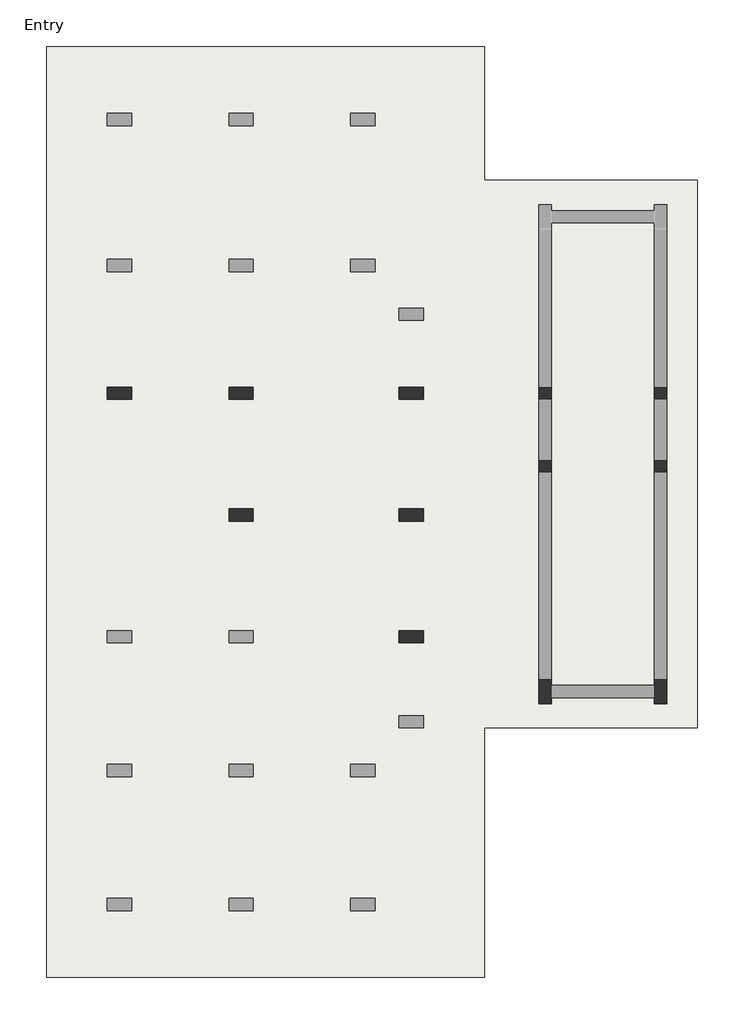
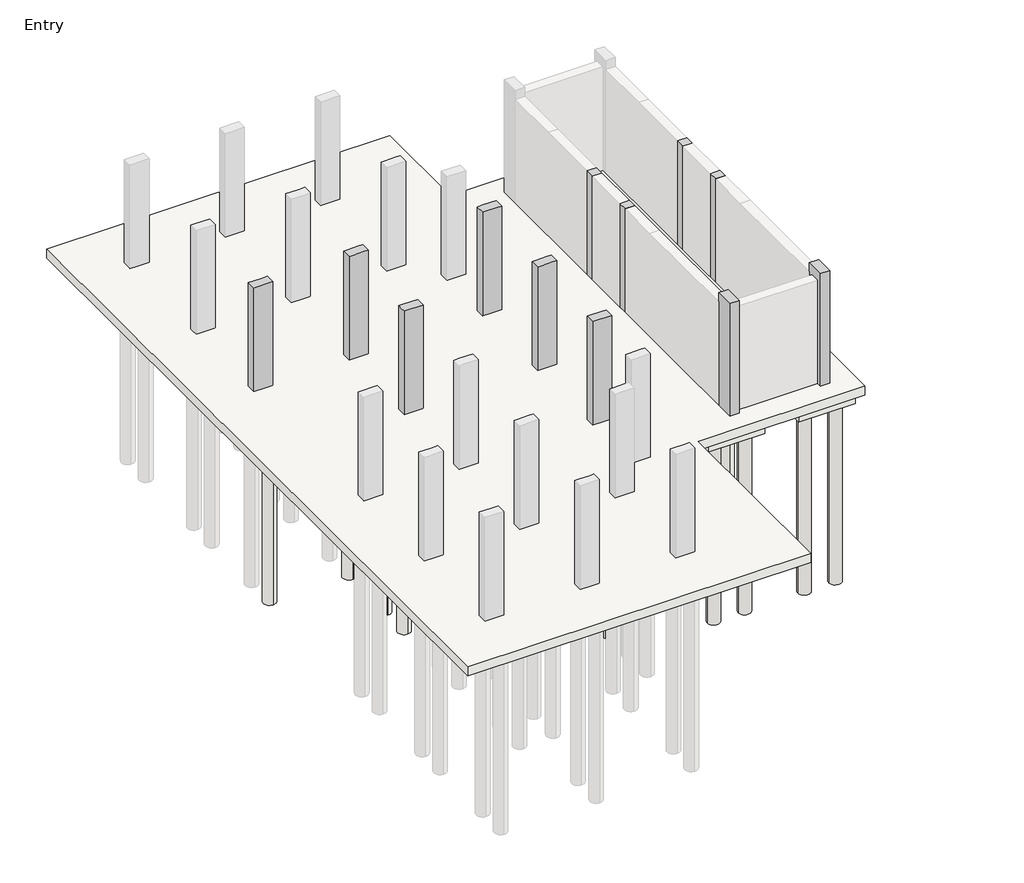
# One storey, part 2 of 3: 35 slabs, 12 columns.
"""IFC4 building model written with IfcOpenShell, lengths in millimetres."""

import ifcopenshell
import ifcopenshell.guid

model = None  # the IFC model being written
_history = None  # IfcOwnerHistory: only IFC2X3 demands one
_inside = {}  # id of a spatial element -> (the spatial element, [elements in it])
_under = {}  # id of a project, library or spatial element -> (it, [spatial elements below it])
_declared = {}  # id of a project -> (the project, [libraries it declares])
_typed = {}  # id of a type object -> (the type object, [elements of that type])
_made_of = {}  # id of a material, layer set ... -> (it, [elements and type objects made of it])


def new_model(schema):
    """Start an empty IFC model of exactly this schema.

    Asked for "IFC4X3", IfcOpenShell would pick the latest addendum, in which some entities
    have other attributes; the version numbers below select the first issue.
    IFC2X3 requires an IfcOwnerHistory on every rooted entity: one is made here for all.
    """
    global model, _history
    if schema == "IFC4X3":
        model = ifcopenshell.file(schema_version=(4, 3, 0, 0))
    else:
        model = ifcopenshell.file(schema=schema)
    _inside.clear()
    _under.clear()
    _declared.clear()
    _typed.clear()
    _made_of.clear()
    _history = None
    if model.schema == "IFC2X3":
        org = make("IfcOrganization", Name="unknown")
        user = make(
            "IfcPersonAndOrganization",
            ThePerson=make("IfcPerson", FamilyName="unknown"),
            TheOrganization=org,
        )
        app = make(
            "IfcApplication",
            ApplicationDeveloper=org,
            Version="unknown",
            ApplicationFullName="unknown",
            ApplicationIdentifier="unknown",
        )
        _history = make(
            "IfcOwnerHistory",
            OwningUser=user,
            OwningApplication=app,
            ChangeAction="ADDED",
            CreationDate=0,
        )
    return model


def make(cls, **values):
    """One entity of the class cls with the attributes given. An attribute that is None is left unset."""
    return model.create_entity(
        cls, **{name: value for name, value in values.items() if value is not None}
    )


def rooted(cls, **values):
    """An entity with a GlobalId (a new one), such as an element, a storey or a relation."""
    return make(cls, GlobalId=ifcopenshell.guid.new(), OwnerHistory=_history, **values)


def si_unit(unit_type, name, prefix=None):
    """IfcSIUnit, for example si_unit("LENGTHUNIT", "METRE", prefix="MILLI")."""
    return make("IfcSIUnit", UnitType=unit_type, Prefix=prefix, Name=name)


def assignment(units):
    """IfcUnitAssignment: the units of a project."""
    return None if units is None else make("IfcUnitAssignment", Units=units)


def point(xyz):
    """IfcCartesianPoint."""
    return None if xyz is None else make("IfcCartesianPoint", Coordinates=xyz)


def direction(xyz):
    """IfcDirection."""
    return None if xyz is None else make("IfcDirection", DirectionRatios=xyz)


def frame(location, z_axis=None, x_axis=None):
    """IfcAxis2Placement3D, a coordinate frame: its origin and axes. An axis left out is left unset."""
    return make(
        "IfcAxis2Placement3D",
        Location=point(location),
        Axis=direction(z_axis),
        RefDirection=direction(x_axis),
    )


def frame_2d(location, x_axis=None):
    """IfcAxis2Placement2D, a coordinate frame in the plane: its origin and x axis."""
    return make(
        "IfcAxis2Placement2D", Location=point(location), RefDirection=direction(x_axis)
    )


def origin():
    """The frame at (0, 0, 0) with its axes left unset."""
    return frame((0.0, 0.0, 0.0))


def origin_with_axes():
    """The frame at (0, 0, 0) with the z axis (0, 0, 1) and the x axis (1, 0, 0) written out."""
    return frame((0.0, 0.0, 0.0), z_axis=(0.0, 0.0, 1.0), x_axis=(1.0, 0.0, 0.0))


def place(relative_to, where):
    """IfcLocalPlacement: puts the frame where relative to a parent placement (None: the world)."""
    return make(
        "IfcLocalPlacement", PlacementRelTo=relative_to, RelativePlacement=where
    )


def context(
    kind, dimensions, precision=None, world=None, true_north=None, identifier=None
):
    """IfcGeometricRepresentationContext, for example the 3D "Model" context."""
    return make(
        "IfcGeometricRepresentationContext",
        ContextIdentifier=identifier,
        ContextType=kind,
        CoordinateSpaceDimension=dimensions,
        Precision=precision,
        WorldCoordinateSystem=world,
        TrueNorth=true_north,
    )


def project(units=None, contexts=None):
    """IfcProject with its units and contexts."""
    return rooted(
        "IfcProject",
        Name="project",
        RepresentationContexts=contexts,
        UnitsInContext=assignment(units),
    )


def spatial(cls, under=None, at=None, **own):
    """A site, building, storey or space (cls), placed at a placement, below another one or the project."""
    s = rooted(cls, ObjectPlacement=at, **own)
    if under is not None:
        _under.setdefault(under.id(), (under, []))[1].append(s)
    return s


def polyline(points):
    """IfcPolyline through the points."""
    return make("IfcPolyline", Points=[point(p) for p in points])


def circle_curve(where, radius):
    """IfcCircle in the frame where."""
    return make("IfcCircle", Position=where, Radius=radius)


def trimmed(basis, trim1, trim2, sense, master):
    """IfcTrimmedCurve: the piece of a basis curve between two trims."""
    return make(
        "IfcTrimmedCurve",
        BasisCurve=basis,
        Trim1=trim1,
        Trim2=trim2,
        SenseAgreement=sense,
        MasterRepresentation=master,
    )


def segment(curve, same_sense, transition):
    """IfcCompositeCurveSegment."""
    return make(
        "IfcCompositeCurveSegment",
        Transition=transition,
        SameSense=same_sense,
        ParentCurve=curve,
    )


def composite_curve(segments, self_intersect=None):
    """IfcCompositeCurve: segments joined end to end."""
    return make("IfcCompositeCurve", Segments=segments, SelfIntersect=self_intersect)


def outline(outer, holes=None, kind="AREA"):
    """IfcArbitraryClosedProfileDef: a profile drawn as a closed curve; with holes, ...WithVoids."""
    if holes is None:
        return make("IfcArbitraryClosedProfileDef", ProfileType=kind, OuterCurve=outer)
    return make(
        "IfcArbitraryProfileDefWithVoids",
        ProfileType=kind,
        OuterCurve=outer,
        InnerCurves=holes,
    )


def extrude(swept, where, along, depth):
    """IfcExtrudedAreaSolid: the profile swept, set in the frame where, extruded along a direction by depth."""
    return make(
        "IfcExtrudedAreaSolid",
        SweptArea=swept,
        Position=where,
        ExtrudedDirection=direction(along),
        Depth=depth,
    )


def faces_of(points, faces, orient=None, outer=None):
    """IfcFace entities. A face is a list of loops; a loop is a list of indices into points, from 0.

    orient and outer hold one flag for each loop. By default every Orientation is true, the
    first loop of a face is its IfcFaceOuterBound and the others are IfcFaceBound.
    """
    made = []
    for i, loops in enumerate(faces):
        bounds = []
        for j, loop in enumerate(loops):
            is_outer = j == 0 if outer is None else outer[i][j]
            bounds.append(
                make(
                    "IfcFaceOuterBound" if is_outer else "IfcFaceBound",
                    Bound=make("IfcPolyLoop", Polygon=[points[k] for k in loop]),
                    Orientation=True if orient is None else orient[i][j],
                )
            )
        made.append(make("IfcFace", Bounds=bounds))
    return made


def faceted_brep(points, faces, orient=None, outer=None, voids=None):
    """IfcFacetedBrep: a solid bounded by flat faces; with voids (closed shells), ...WithVoids."""
    shared = [point(p) for p in points]
    hull = make("IfcClosedShell", CfsFaces=faces_of(shared, faces, orient, outer))
    if voids is None:
        return make("IfcFacetedBrep", Outer=hull)
    return make(
        "IfcFacetedBrepWithVoids",
        Outer=hull,
        Voids=[
            make(cls, CfsFaces=faces_of(shared, fs, o, b)) for cls, fs, o, b in voids
        ],
    )


def shape(context_of_items, identifier, shape_type, items):
    """IfcShapeRepresentation: the items that make up one representation, for example the "Body"."""
    return make(
        "IfcShapeRepresentation",
        ContextOfItems=context_of_items,
        RepresentationIdentifier=identifier,
        RepresentationType=shape_type,
        Items=items,
    )


def made_of(thing, what):
    """Note that an element or type object is made of a material, layer set ...; save() writes the relation."""
    if what is not None:
        _made_of.setdefault(what.id(), (what, []))[1].append(thing)
    return thing


def element(
    cls,
    number,
    at=None,
    inside=None,
    cuts=None,
    type_object=None,
    material=None,
    context=None,
    identifier="Body",
    shape_type=None,
    held_by="IfcProductDefinitionShape",
    body=None,
    shapes=None,
    **own,
):
    """One element of the class cls, such as IfcWall. Its Tag is "e" and its number.

    at: its placement. inside: the storey or other place that contains it. cuts: it is an
    opening in that element (IfcRelVoidsElement). A single representation is given by context,
    identifier, shape_type and body (its items); several are given by shapes. held_by: the class
    of the entity that holds the representations. save() writes the other relations.
    """
    e = rooted(cls, Tag="e%d" % number, ObjectPlacement=at, **own)
    if body is not None:
        shapes = [shape(context, identifier, shape_type, body)]
    if shapes is not None:
        e.Representation = make(held_by, Representations=shapes)
    if inside is not None:
        _inside.setdefault(inside.id(), (inside, []))[1].append(e)
    if cuts is not None:
        rooted(
            "IfcRelVoidsElement", RelatingBuildingElement=cuts, RelatedOpeningElement=e
        )
    if type_object is not None:
        _typed.setdefault(type_object.id(), (type_object, []))[1].append(e)
    return made_of(e, material)


def aggregate(whole, parts):
    """IfcRelAggregates: a whole, such as a stair, and the parts it consists of."""
    return rooted("IfcRelAggregates", RelatingObject=whole, RelatedObjects=parts)


def save(model, path):
    """Write the relations noted so far, then the file.

    IfcRelAggregates (storeys below a building ...), IfcRelContainedInSpatialStructure (elements
    in a storey), IfcRelDefinesByType, IfcRelAssociatesMaterial and IfcRelDeclares: one each for
    every whole, place, type object, material and project.
    """
    for whole, parts in _under.values():
        aggregate(whole, parts)
    for where, things in _inside.values():
        rooted(
            "IfcRelContainedInSpatialStructure",
            RelatedElements=things,
            RelatingStructure=where,
        )
    for kind, things in _typed.values():
        rooted("IfcRelDefinesByType", RelatedObjects=things, RelatingType=kind)
    for what, things in _made_of.values():
        rooted("IfcRelAssociatesMaterial", RelatedObjects=things, RelatingMaterial=what)
    for by, libraries in _declared.values():
        rooted("IfcRelDeclares", RelatingContext=by, RelatedDefinitions=libraries)
    model.write(path)


model = new_model("IFC4")

# Units and contexts
model_context = context("Model", 3, world=origin())
ifc_project = project(units=[si_unit("LENGTHUNIT", "METRE", prefix="MILLI")], contexts=[model_context])

# Site, building, storey
site = spatial("IfcSite", under=ifc_project)
building = spatial("IfcBuilding", under=site)
storey = spatial("IfcBuildingStorey", under=building, Name="Entry", Elevation=0.0)

# Columns
placement = place(None, origin())
element("IfcColumn", 1, ObjectType="Concrete-Rectangular-Column : 12 x 24", at=placement, inside=storey, context=model_context, shape_type="Brep", body=[
    faceted_brep([(-15677.5554735, 7788.9867088, 0.0), (-15067.9554735, 7788.9867088, 0.0), (-15067.9554735, 7484.1867088, 0.0), (-15677.5554735, 7484.1867088, 0.0), (-15677.5554735, 7788.9867088, 3505.2), (-15525.1554735, 7788.9867088, 3505.2), (-15220.3554735, 7788.9867088, 3505.2), (-15067.9554735, 7788.9867088, 3505.2), (-15067.9554735, 7788.9867088, 2895.6), (-15067.9554735, 7484.1867088, 3505.2), (-15067.9554735, 7484.1867088, 2895.6), (-15677.5554735, 7484.1867088, 3505.2)], [[[0, 1, 2, 3]], [[4, 5, 6, 7, 8, 1, 0]], [[7, 9, 10, 2, 1, 8]], [[9, 11, 3, 2, 10]], [[11, 4, 0, 3]], [[4, 11, 9, 7, 6, 5]]]),
])
element("IfcColumn", 2, ObjectType="Concrete-Rectangular-Column : 12 x 24", at=placement, inside=storey, context=model_context, shape_type="Brep", body=[
    faceted_brep([(-12629.5554735, 7788.9867088, 0.0), (-12019.9554735, 7788.9867088, 0.0), (-12019.9554735, 7484.1867088, 0.0), (-12629.5554735, 7484.1867088, 0.0), (-12629.5554735, 7788.9867088, 3505.2), (-12477.1554735, 7788.9867088, 3505.2), (-12172.3554735, 7788.9867088, 3505.2), (-12019.9554735, 7788.9867088, 3505.2), (-12019.9554735, 7788.9867088, 2895.6), (-12629.5554735, 7788.9867088, 2895.6), (-12019.9554735, 7484.1867088, 3505.2), (-12019.9554735, 7484.1867088, 2895.6), (-12172.3554735, 7484.1867088, 3505.2), (-12477.1554735, 7484.1867088, 3505.2), (-12629.5554735, 7484.1867088, 3505.2), (-12629.5554735, 7484.1867088, 2895.6)], [[[0, 1, 2, 3]], [[4, 5, 6, 7, 8, 1, 0, 9]], [[7, 10, 11, 2, 1, 8]], [[10, 12, 13, 14, 15, 3, 2, 11]], [[14, 4, 9, 0, 3, 15]], [[4, 14, 13, 12, 10, 7, 6, 5]]]),
])
element("IfcColumn", 3, ObjectType="Concrete-Rectangular-Column : 12 x 24", at=placement, inside=storey, context=model_context, shape_type="Brep", body=[
    faceted_brep([(-8362.3554735, 7788.9867088, 0.0), (-7752.7554735, 7788.9867088, 0.0), (-7752.7554735, 7484.1867088, 0.0), (-8362.3554735, 7484.1867088, 0.0), (-8362.3554735, 7788.9867088, 3505.2), (-8209.9554735, 7788.9867088, 3505.2), (-7905.1554735, 7788.9867088, 3505.2), (-7752.7554735, 7788.9867088, 3505.2), (-7752.7554735, 7788.9867088, 2895.6), (-8362.3554735, 7788.9867088, 2895.6), (-7752.7554735, 7484.1867088, 3505.2), (-7752.7554735, 7484.1867088, 2895.6), (-7905.1554735, 7484.1867088, 3505.2), (-8209.9554735, 7484.1867088, 3505.2), (-8362.3554735, 7484.1867088, 3505.2), (-8362.3554735, 7484.1867088, 2895.6)], [[[0, 1, 2, 3]], [[4, 5, 6, 7, 8, 1, 0, 9]], [[7, 10, 11, 2, 1, 8]], [[10, 12, 13, 14, 15, 3, 2, 11]], [[14, 4, 9, 0, 3, 15]], [[4, 14, 13, 12, 10, 7, 6, 5]]]),
])
element("IfcColumn", 4, ObjectType="Concrete-Rectangular-Column : 12 x 24", at=placement, inside=storey, context=model_context, shape_type="SweptSolid", body=[
    extrude(outline(polyline([(-4552.3554735, 7484.1867088), (-4857.1554735, 7484.1867088), (-4857.1554735, 7788.9867088), (-4552.3554735, 7788.9867088), (-4552.3554735, 7484.1867088)])), origin_with_axes(), (0.0, 0.0, 1.0), 3505.2),
])
element("IfcColumn", 5, ObjectType="Concrete-Rectangular-Column : 12 x 24", at=placement, inside=storey, context=model_context, shape_type="SweptSolid", body=[
    extrude(outline(polyline([(-1961.5554735, 7788.9867088), (-1656.7554735, 7788.9867088), (-1656.7554735, 7484.1867088), (-1961.5554735, 7484.1867088), (-1961.5554735, 7788.9867088)])), origin_with_axes(), (0.0, 0.0, 1.0), 3505.2),
])
element("IfcColumn", 6, ObjectType="Concrete-Rectangular-Column : 12 x 24", at=placement, inside=storey, context=model_context, shape_type="SweptSolid", body=[
    extrude(outline(polyline([(-4552.3554735, 5655.3867088), (-4857.1554735, 5655.3867088), (-4857.1554735, 5960.1867088), (-4552.3554735, 5960.1867088), (-4552.3554735, 5655.3867088)])), origin_with_axes(), (0.0, 0.0, 1.0), 3505.2),
])
element("IfcColumn", 7, ObjectType="Concrete-Rectangular-Column : 12 x 24", at=placement, inside=storey, context=model_context, shape_type="SweptSolid", body=[
    extrude(outline(polyline([(-1961.5554735, 5960.1867088), (-1656.7554735, 5960.1867088), (-1656.7554735, 5655.3867088), (-1961.5554735, 5655.3867088), (-1961.5554735, 5960.1867088)])), origin_with_axes(), (0.0, 0.0, 1.0), 3505.2),
])
element("IfcColumn", 8, ObjectType="Concrete-Rectangular-Column : 12 x 24", at=placement, inside=storey, context=model_context, shape_type="Brep", body=[
    faceted_brep([(-12629.5554735, 4740.9867088, 0.0), (-12019.9554735, 4740.9867088, 0.0), (-12019.9554735, 4436.1867088, 0.0), (-12629.5554735, 4436.1867088, 0.0), (-12629.5554735, 4740.9867088, 3505.2), (-12477.1554735, 4740.9867088, 3505.2), (-12172.3554735, 4740.9867088, 3505.2), (-12019.9554735, 4740.9867088, 3505.2), (-12019.9554735, 4740.9867088, 2895.6), (-12019.9554735, 4436.1867088, 3505.2), (-12019.9554735, 4436.1867088, 2895.6), (-12172.3554735, 4436.1867088, 3505.2), (-12477.1554735, 4436.1867088, 3505.2), (-12629.5554735, 4436.1867088, 3505.2), (-12629.5554735, 4588.5867088, 3505.2)], [[[0, 1, 2, 3]], [[4, 5, 6, 7, 8, 1, 0]], [[7, 9, 10, 2, 1, 8]], [[9, 11, 12, 13, 3, 2, 10]], [[13, 14, 4, 0, 3]], [[4, 14, 13, 12, 11, 9, 7, 6, 5]]]),
])
element("IfcColumn", 9, ObjectType="Concrete-Rectangular-Column : 12 x 24", at=placement, inside=storey, context=model_context, shape_type="Brep", body=[
    faceted_brep([(-8362.3554735, 4740.9867088, 0.0), (-7752.7554735, 4740.9867088, 0.0), (-7752.7554735, 4436.1867088, 0.0), (-8362.3554735, 4436.1867088, 0.0), (-8362.3554735, 4740.9867088, 3505.2), (-8209.9554735, 4740.9867088, 3505.2), (-7905.1554735, 4740.9867088, 3505.2), (-7752.7554735, 4740.9867088, 3505.2), (-8362.3554735, 4740.9867088, 2895.6), (-7752.7554735, 4436.1867088, 3505.2), (-7905.1554735, 4436.1867088, 3505.2), (-8209.9554735, 4436.1867088, 3505.2), (-8362.3554735, 4436.1867088, 3505.2), (-8362.3554735, 4436.1867088, 2895.6)], [[[0, 1, 2, 3]], [[4, 5, 6, 7, 1, 0, 8]], [[7, 9, 2, 1]], [[9, 10, 11, 12, 13, 3, 2]], [[12, 4, 8, 0, 3, 13]], [[4, 12, 11, 10, 9, 7, 6, 5]]]),
])
element("IfcColumn", 10, ObjectType="Concrete-Rectangular-Column : 12 x 24", at=placement, inside=storey, context=model_context, shape_type="Brep", body=[
    faceted_brep([(-8362.3554735, 1692.9867088, 0.0), (-7752.7554735, 1692.9867088, 0.0), (-7752.7554735, 1388.1867088, 0.0), (-8362.3554735, 1388.1867088, 0.0), (-8362.3554735, 1692.9867088, 3505.2), (-8209.9554735, 1692.9867088, 3505.2), (-7905.1554735, 1692.9867088, 3505.2), (-7752.7554735, 1692.9867088, 3505.2), (-8362.3554735, 1692.9867088, 2895.6), (-7752.7554735, 1388.1867088, 3505.2), (-7905.1554735, 1388.1867088, 3505.2), (-8209.9554735, 1388.1867088, 3505.2), (-8362.3554735, 1388.1867088, 3505.2), (-8362.3554735, 1388.1867088, 2895.6)], [[[0, 1, 2, 3]], [[4, 5, 6, 7, 1, 0, 8]], [[7, 9, 2, 1]], [[9, 10, 11, 12, 13, 3, 2]], [[12, 4, 8, 0, 3, 13]], [[4, 12, 11, 10, 9, 7, 6, 5]]]),
])
element("IfcColumn", 11, ObjectType="Concrete-Rectangular-Column : 12 x 24", at=placement, inside=storey, context=model_context, shape_type="Brep", body=[
    faceted_brep([(-4857.1554735, -135.8132912, 0.0), (-4857.1554735, 473.7867088, 0.0), (-4552.3554735, 473.7867088, 0.0), (-4552.3554735, 321.3867088, 0.0), (-4552.3554735, 16.5867088, 0.0), (-4552.3554735, -135.8132912, 0.0), (-4857.1554735, -135.8132912, 3810.0), (-4857.1554735, 473.7867088, 3810.0), (-4857.1554735, 473.7867088, 3505.2), (-4552.3554735, 473.7867088, 3810.0), (-4552.3554735, 473.7867088, 3505.2), (-4552.3554735, -135.8132912, 3810.0)], [[[0, 1, 2, 3, 4, 5]], [[6, 7, 8, 1, 0]], [[7, 9, 10, 2, 1, 8]], [[9, 11, 5, 4, 3, 2, 10]], [[11, 6, 0, 5]], [[6, 11, 9, 7]]]),
])
element("IfcColumn", 12, ObjectType="Concrete-Rectangular-Column : 12 x 24", at=placement, inside=storey, context=model_context, shape_type="Brep", body=[
    faceted_brep([(-1961.5554735, -135.8132912, 0.0), (-1961.5554735, 16.5867088, 0.0), (-1961.5554735, 321.3867088, 0.0), (-1961.5554735, 473.7867088, 0.0), (-1656.7554735, 473.7867088, 0.0), (-1656.7554735, -135.8132912, 0.0), (-1961.5554735, -135.8132912, 3810.0), (-1961.5554735, 473.7867088, 3810.0), (-1961.5554735, 473.7867088, 3505.2), (-1656.7554735, 473.7867088, 3810.0), (-1656.7554735, 473.7867088, 3505.2), (-1656.7554735, -135.8132912, 3810.0)], [[[0, 1, 2, 3, 4, 5]], [[6, 7, 8, 3, 2, 1, 0]], [[7, 9, 10, 4, 3, 8]], [[9, 11, 5, 4, 10]], [[11, 6, 0, 5]], [[6, 11, 9, 7]]]),
])

# Slabs
element("IfcSlab", 13, ObjectType="12\" Foundation Slab", at=placement, inside=storey, context=model_context, shape_type="SweptSolid", body=[
    extrude(outline(polyline([(-6228.7554735, 16323.3867088), (-6228.7554735, 12970.5867088), (-894.7554735, 12970.5867088), (-894.7554735, -745.4132912), (-6228.7554735, -745.4132912), (-6228.7554735, -6993.8132912), (-17201.5554735, -6993.8132912), (-17201.5554735, 16323.3867088), (-6228.7554735, 16323.3867088)])), frame((0.0, 0.0, -304.8), z_axis=(0.0, 0.0, 1.0), x_axis=(1.0, 0.0, 0.0)), (0.0, 0.0, 1.0), 304.8),
])
element("IfcSlab", 14, ObjectType="Pile Cap-2 Pile : 31\"x61\"x35\"", at=placement, inside=storey, context=model_context, shape_type="SweptSolid", body=[
    extrude(outline(polyline([(-15779.1554735, 8538.2867088), (-14966.3554735, 8538.2867088), (-14966.3554735, 6734.8867088), (-15779.1554735, 6734.8867088), (-15779.1554735, 8538.2867088)])), frame((0.0, 0.0, -889.0), z_axis=(0.0, 0.0, 1.0), x_axis=(1.0, 0.0, 0.0)), (0.0, 0.0, 1.0), 584.2),
])
element("IfcSlab", 15, ObjectType="Pile Cap-2 Pile : 31\"x61\"x35\"", at=placement, inside=storey, context=model_context, shape_type="SweptSolid", body=[
    extrude(outline(polyline([(-8463.9554735, 2442.2867088), (-7651.1554735, 2442.2867088), (-7651.1554735, 638.8867088), (-8463.9554735, 638.8867088), (-8463.9554735, 2442.2867088)])), frame((0.0, 0.0, -889.0), z_axis=(0.0, 0.0, 1.0), x_axis=(1.0, 0.0, 0.0)), (0.0, 0.0, 1.0), 584.2),
])
element("IfcSlab", 16, ObjectType="Pile Cap-2 Pile : 31\"x61\"x35\"", at=placement, inside=storey, context=model_context, shape_type="SweptSolid", body=[
    extrude(outline(polyline([(-8463.9554735, 5490.2867088), (-7651.1554735, 5490.2867088), (-7651.1554735, 3686.8867088), (-8463.9554735, 3686.8867088), (-8463.9554735, 5490.2867088)])), frame((0.0, 0.0, -889.0), z_axis=(0.0, 0.0, 1.0), x_axis=(1.0, 0.0, 0.0)), (0.0, 0.0, 1.0), 584.2),
])
element("IfcSlab", 17, ObjectType="Pile Cap-2 Pile : 31\"x61\"x35\"", at=placement, inside=storey, context=model_context, shape_type="SweptSolid", body=[
    extrude(outline(polyline([(-8463.9554735, 8538.2867088), (-7651.1554735, 8538.2867088), (-7651.1554735, 6734.8867088), (-8463.9554735, 6734.8867088), (-8463.9554735, 8538.2867088)])), frame((0.0, 0.0, -889.0), z_axis=(0.0, 0.0, 1.0), x_axis=(1.0, 0.0, 0.0)), (0.0, 0.0, 1.0), 584.2),
])
element("IfcSlab", 18, ObjectType="Pile Cap-2 Pile : 31\"x61\"x35\"", at=placement, inside=storey, context=model_context, shape_type="SweptSolid", body=[
    extrude(outline(polyline([(-5111.1554735, 8538.2867088), (-4298.3554735, 8538.2867088), (-4298.3554735, 6734.8867088), (-5111.1554735, 6734.8867088), (-5111.1554735, 8538.2867088)])), frame((0.0, 0.0, -889.0), z_axis=(0.0, 0.0, 1.0), x_axis=(1.0, 0.0, 0.0)), (0.0, 0.0, 1.0), 584.2),
])
element("IfcSlab", 19, ObjectType="Pile Cap-2 Pile : 31\"x61\"x35\"", at=placement, inside=storey, context=model_context, shape_type="SweptSolid", body=[
    extrude(outline(polyline([(-2215.5554735, 8538.2867088), (-1402.7554735, 8538.2867088), (-1402.7554735, 6734.8867088), (-2215.5554735, 6734.8867088), (-2215.5554735, 8538.2867088)])), frame((0.0, 0.0, -889.0), z_axis=(0.0, 0.0, 1.0), x_axis=(1.0, 0.0, 0.0)), (0.0, 0.0, 1.0), 584.2),
])
element("IfcSlab", 20, ObjectType="Pile Cap-2 Pile : 31\"x61\"x35\"", at=placement, inside=storey, context=model_context, shape_type="SweptSolid", body=[
    extrude(outline(polyline([(-5111.1554735, 6709.4867088), (-4298.3554735, 6709.4867088), (-4298.3554735, 4906.0867088), (-5111.1554735, 4906.0867088), (-5111.1554735, 6709.4867088)])), frame((0.0, 0.0, -889.0), z_axis=(0.0, 0.0, 1.0), x_axis=(1.0, 0.0, 0.0)), (0.0, 0.0, 1.0), 584.2),
])
element("IfcSlab", 21, ObjectType="Pile Cap-2 Pile : 31\"x61\"x35\"", at=placement, inside=storey, context=model_context, shape_type="SweptSolid", body=[
    extrude(outline(polyline([(-2215.5554735, 6709.4867088), (-1402.7554735, 6709.4867088), (-1402.7554735, 4906.0867088), (-2215.5554735, 4906.0867088), (-2215.5554735, 6709.4867088)])), frame((0.0, 0.0, -889.0), z_axis=(0.0, 0.0, 1.0), x_axis=(1.0, 0.0, 0.0)), (0.0, 0.0, 1.0), 584.2),
])
element("IfcSlab", 22, ObjectType="Pile Cap-2 Pile : 31\"x61\"x35\"", at=placement, inside=storey, context=model_context, shape_type="SweptSolid", body=[
    extrude(outline(polyline([(-5606.4554735, -237.4132912), (-5606.4554735, 575.3867088), (-3803.0554735, 575.3867088), (-3803.0554735, -237.4132912), (-5606.4554735, -237.4132912)])), frame((0.0, 0.0, -889.0), z_axis=(0.0, 0.0, 1.0), x_axis=(1.0, 0.0, 0.0)), (0.0, 0.0, 1.0), 584.2),
])
element("IfcSlab", 23, ObjectType="Pile Cap-2 Pile : 31\"x61\"x35\"", at=placement, inside=storey, context=model_context, shape_type="SweptSolid", body=[
    extrude(outline(polyline([(-2710.8554735, -237.4132912), (-2710.8554735, 575.3867088), (-907.4554735, 575.3867088), (-907.4554735, -237.4132912), (-2710.8554735, -237.4132912)])), frame((0.0, 0.0, -889.0), z_axis=(0.0, 0.0, 1.0), x_axis=(1.0, 0.0, 0.0)), (0.0, 0.0, 1.0), 584.2),
])
element("IfcSlab", 24, ObjectType="Pile Cap-4 Pile : 72\"x72\"x35\"", at=placement, inside=storey, context=model_context, shape_type="SweptSolid", body=[
    extrude(outline(polyline([(-13239.1554735, 8550.9867088), (-11410.3554735, 8550.9867088), (-11410.3554735, 6722.1867088), (-13239.1554735, 6722.1867088), (-13239.1554735, 8550.9867088)])), frame((0.0, 0.0, -889.0), z_axis=(0.0, 0.0, 1.0), x_axis=(1.0, 0.0, 0.0)), (0.0, 0.0, 1.0), 584.2),
])
element("IfcSlab", 25, ObjectType="Pile Cap-4 Pile : 72\"x72\"x35\"", at=placement, inside=storey, context=model_context, shape_type="SweptSolid", body=[
    extrude(outline(polyline([(-13239.1554735, 5502.9867088), (-11410.3554735, 5502.9867088), (-11410.3554735, 3674.1867088), (-13239.1554735, 3674.1867088), (-13239.1554735, 5502.9867088)])), frame((0.0, 0.0, -889.0), z_axis=(0.0, 0.0, 1.0), x_axis=(1.0, 0.0, 0.0)), (0.0, 0.0, 1.0), 584.2),
])
element("IfcSlab", 26, ObjectType="Pile-Steel Pipe : 16\" Diameter", at=placement, inside=storey, context=model_context, shape_type="SweptSolid", body=[
    extrude(outline(composite_curve([segment(trimmed(circle_curve(frame_2d((-12858.1554735, 7103.1867088)), 203.2), [point((-12858.1554735, 6899.9867088))], [point((-12858.1554735, 7306.3867088))], False, "CARTESIAN"), True, "CONTINUOUS"), segment(trimmed(circle_curve(frame_2d((-12858.1554735, 7103.1867088)), 203.2), [point((-12858.1554735, 7306.3867088))], [point((-12858.1554735, 6899.9867088))], False, "CARTESIAN"), True, "CONTINUOUS")], self_intersect=False)), frame((0.0, 0.0, -6985.0), z_axis=(0.0, 0.0, 1.0), x_axis=(1.0, 0.0, 0.0)), (0.0, 0.0, 1.0), 6096.0),
])
element("IfcSlab", 27, ObjectType="Pile-Steel Pipe : 16\" Diameter", at=placement, inside=storey, context=model_context, shape_type="SweptSolid", body=[
    extrude(outline(composite_curve([segment(trimmed(circle_curve(frame_2d((-11791.3554735, 7103.1867088)), 203.2), [point((-11791.3554735, 6899.9867088))], [point((-11791.3554735, 7306.3867088))], False, "CARTESIAN"), True, "CONTINUOUS"), segment(trimmed(circle_curve(frame_2d((-11791.3554735, 7103.1867088)), 203.2), [point((-11791.3554735, 7306.3867088))], [point((-11791.3554735, 6899.9867088))], False, "CARTESIAN"), True, "CONTINUOUS")], self_intersect=False)), frame((0.0, 0.0, -6985.0), z_axis=(0.0, 0.0, 1.0), x_axis=(1.0, 0.0, 0.0)), (0.0, 0.0, 1.0), 6096.0),
])
element("IfcSlab", 28, ObjectType="Pile-Steel Pipe : 16\" Diameter", at=placement, inside=storey, context=model_context, shape_type="SweptSolid", body=[
    extrude(outline(composite_curve([segment(trimmed(circle_curve(frame_2d((-12858.1554735, 4055.1867088)), 203.2), [point((-12858.1554735, 3851.9867088))], [point((-12858.1554735, 4258.3867088))], False, "CARTESIAN"), True, "CONTINUOUS"), segment(trimmed(circle_curve(frame_2d((-12858.1554735, 4055.1867088)), 203.2), [point((-12858.1554735, 4258.3867088))], [point((-12858.1554735, 3851.9867088))], False, "CARTESIAN"), True, "CONTINUOUS")], self_intersect=False)), frame((0.0, 0.0, -6985.0), z_axis=(0.0, 0.0, 1.0), x_axis=(1.0, 0.0, 0.0)), (0.0, 0.0, 1.0), 6096.0),
])
element("IfcSlab", 29, ObjectType="Pile-Steel Pipe : 16\" Diameter", at=placement, inside=storey, context=model_context, shape_type="SweptSolid", body=[
    extrude(outline(composite_curve([segment(trimmed(circle_curve(frame_2d((-11791.3554735, 4055.1867088)), 203.2), [point((-11791.3554735, 3851.9867088))], [point((-11791.3554735, 4258.3867088))], False, "CARTESIAN"), True, "CONTINUOUS"), segment(trimmed(circle_curve(frame_2d((-11791.3554735, 4055.1867088)), 203.2), [point((-11791.3554735, 4258.3867088))], [point((-11791.3554735, 3851.9867088))], False, "CARTESIAN"), True, "CONTINUOUS")], self_intersect=False)), frame((0.0, 0.0, -6985.0), z_axis=(0.0, 0.0, 1.0), x_axis=(1.0, 0.0, 0.0)), (0.0, 0.0, 1.0), 6096.0),
])
element("IfcSlab", 30, ObjectType="Pile-Steel Pipe : 16\" Diameter", at=placement, inside=storey, context=model_context, shape_type="SweptSolid", body=[
    extrude(outline(composite_curve([segment(trimmed(circle_curve(frame_2d((-11791.3554735, 5121.9867088)), 203.2), [point((-11791.3554735, 4918.7867088))], [point((-11791.3554735, 5325.1867088))], False, "CARTESIAN"), True, "CONTINUOUS"), segment(trimmed(circle_curve(frame_2d((-11791.3554735, 5121.9867088)), 203.2), [point((-11791.3554735, 5325.1867088))], [point((-11791.3554735, 4918.7867088))], False, "CARTESIAN"), True, "CONTINUOUS")], self_intersect=False)), frame((0.0, 0.0, -6985.0), z_axis=(0.0, 0.0, 1.0), x_axis=(1.0, 0.0, 0.0)), (0.0, 0.0, 1.0), 6096.0),
])
element("IfcSlab", 31, ObjectType="Pile-Steel Pipe : 16\" Diameter", at=placement, inside=storey, context=model_context, shape_type="SweptSolid", body=[
    extrude(outline(composite_curve([segment(trimmed(circle_curve(frame_2d((-12858.1554735, 5121.9867088)), 203.2), [point((-12858.1554735, 4918.7867088))], [point((-12858.1554735, 5325.1867088))], False, "CARTESIAN"), True, "CONTINUOUS"), segment(trimmed(circle_curve(frame_2d((-12858.1554735, 5121.9867088)), 203.2), [point((-12858.1554735, 5325.1867088))], [point((-12858.1554735, 4918.7867088))], False, "CARTESIAN"), True, "CONTINUOUS")], self_intersect=False)), frame((0.0, 0.0, -6985.0), z_axis=(0.0, 0.0, 1.0), x_axis=(1.0, 0.0, 0.0)), (0.0, 0.0, 1.0), 6096.0),
])
element("IfcSlab", 32, ObjectType="Pile-Steel Pipe : 16\" Diameter", at=placement, inside=storey, context=model_context, shape_type="SweptSolid", body=[
    extrude(outline(composite_curve([segment(trimmed(circle_curve(frame_2d((-11791.3554735, 2073.9867088)), 203.2), [point((-11791.3554735, 1870.7867088))], [point((-11791.3554735, 2277.1867088))], False, "CARTESIAN"), True, "CONTINUOUS"), segment(trimmed(circle_curve(frame_2d((-11791.3554735, 2073.9867088)), 203.2), [point((-11791.3554735, 2277.1867088))], [point((-11791.3554735, 1870.7867088))], False, "CARTESIAN"), True, "CONTINUOUS")], self_intersect=False)), frame((0.0, 0.0, -6985.0), z_axis=(0.0, 0.0, 1.0), x_axis=(1.0, 0.0, 0.0)), (0.0, 0.0, 1.0), 6096.0),
])
element("IfcSlab", 33, ObjectType="Pile-Steel Pipe : 16\" Diameter", at=placement, inside=storey, context=model_context, shape_type="SweptSolid", body=[
    extrude(outline(composite_curve([segment(trimmed(circle_curve(frame_2d((-15372.7554735, 7141.2867088)), 203.2), [point((-15372.7554735, 6938.0867088))], [point((-15372.7554735, 7344.4867088))], False, "CARTESIAN"), True, "CONTINUOUS"), segment(trimmed(circle_curve(frame_2d((-15372.7554735, 7141.2867088)), 203.2), [point((-15372.7554735, 7344.4867088))], [point((-15372.7554735, 6938.0867088))], False, "CARTESIAN"), True, "CONTINUOUS")], self_intersect=False)), frame((0.0, 0.0, -6985.0), z_axis=(0.0, 0.0, 1.0), x_axis=(1.0, 0.0, 0.0)), (0.0, 0.0, 1.0), 6096.0),
])
element("IfcSlab", 34, ObjectType="Pile-Steel Pipe : 16\" Diameter", at=placement, inside=storey, context=model_context, shape_type="SweptSolid", body=[
    extrude(outline(composite_curve([segment(trimmed(circle_curve(frame_2d((-8057.5554735, 2035.8867088)), 203.2), [point((-8057.5554735, 1832.6867088))], [point((-8057.5554735, 2239.0867088))], False, "CARTESIAN"), True, "CONTINUOUS"), segment(trimmed(circle_curve(frame_2d((-8057.5554735, 2035.8867088)), 203.2), [point((-8057.5554735, 2239.0867088))], [point((-8057.5554735, 1832.6867088))], False, "CARTESIAN"), True, "CONTINUOUS")], self_intersect=False)), frame((0.0, 0.0, -6985.0), z_axis=(0.0, 0.0, 1.0), x_axis=(1.0, 0.0, 0.0)), (0.0, 0.0, 1.0), 6096.0),
])
element("IfcSlab", 35, ObjectType="Pile-Steel Pipe : 16\" Diameter", at=placement, inside=storey, context=model_context, shape_type="SweptSolid", body=[
    extrude(outline(composite_curve([segment(trimmed(circle_curve(frame_2d((-8057.5554735, 1045.2867088)), 203.2), [point((-8057.5554735, 842.0867088))], [point((-8057.5554735, 1248.4867088))], False, "CARTESIAN"), True, "CONTINUOUS"), segment(trimmed(circle_curve(frame_2d((-8057.5554735, 1045.2867088)), 203.2), [point((-8057.5554735, 1248.4867088))], [point((-8057.5554735, 842.0867088))], False, "CARTESIAN"), True, "CONTINUOUS")], self_intersect=False)), frame((0.0, 0.0, -6985.0), z_axis=(0.0, 0.0, 1.0), x_axis=(1.0, 0.0, 0.0)), (0.0, 0.0, 1.0), 6096.0),
])
element("IfcSlab", 36, ObjectType="Pile-Steel Pipe : 16\" Diameter", at=placement, inside=storey, context=model_context, shape_type="SweptSolid", body=[
    extrude(outline(composite_curve([segment(trimmed(circle_curve(frame_2d((-8057.5554735, 5083.8867088)), 203.2), [point((-8057.5554735, 4880.6867088))], [point((-8057.5554735, 5287.0867088))], False, "CARTESIAN"), True, "CONTINUOUS"), segment(trimmed(circle_curve(frame_2d((-8057.5554735, 5083.8867088)), 203.2), [point((-8057.5554735, 5287.0867088))], [point((-8057.5554735, 4880.6867088))], False, "CARTESIAN"), True, "CONTINUOUS")], self_intersect=False)), frame((0.0, 0.0, -6985.0), z_axis=(0.0, 0.0, 1.0), x_axis=(1.0, 0.0, 0.0)), (0.0, 0.0, 1.0), 6096.0),
])
element("IfcSlab", 37, ObjectType="Pile-Steel Pipe : 16\" Diameter", at=placement, inside=storey, context=model_context, shape_type="SweptSolid", body=[
    extrude(outline(composite_curve([segment(trimmed(circle_curve(frame_2d((-8057.5554735, 4093.2867088)), 203.2), [point((-8057.5554735, 3890.0867088))], [point((-8057.5554735, 4296.4867088))], False, "CARTESIAN"), True, "CONTINUOUS"), segment(trimmed(circle_curve(frame_2d((-8057.5554735, 4093.2867088)), 203.2), [point((-8057.5554735, 4296.4867088))], [point((-8057.5554735, 3890.0867088))], False, "CARTESIAN"), True, "CONTINUOUS")], self_intersect=False)), frame((0.0, 0.0, -6985.0), z_axis=(0.0, 0.0, 1.0), x_axis=(1.0, 0.0, 0.0)), (0.0, 0.0, 1.0), 6096.0),
])
element("IfcSlab", 38, ObjectType="Pile-Steel Pipe : 16\" Diameter", at=placement, inside=storey, context=model_context, shape_type="SweptSolid", body=[
    extrude(outline(composite_curve([segment(trimmed(circle_curve(frame_2d((-8057.5554735, 7141.2867088)), 203.2), [point((-8057.5554735, 6938.0867088))], [point((-8057.5554735, 7344.4867088))], False, "CARTESIAN"), True, "CONTINUOUS"), segment(trimmed(circle_curve(frame_2d((-8057.5554735, 7141.2867088)), 203.2), [point((-8057.5554735, 7344.4867088))], [point((-8057.5554735, 6938.0867088))], False, "CARTESIAN"), True, "CONTINUOUS")], self_intersect=False)), frame((0.0, 0.0, -6985.0), z_axis=(0.0, 0.0, 1.0), x_axis=(1.0, 0.0, 0.0)), (0.0, 0.0, 1.0), 6096.0),
])
element("IfcSlab", 39, ObjectType="Pile-Steel Pipe : 16\" Diameter", at=placement, inside=storey, context=model_context, shape_type="SweptSolid", body=[
    extrude(outline(composite_curve([segment(trimmed(circle_curve(frame_2d((-4704.7554735, 7141.2867088)), 203.2), [point((-4704.7554735, 6938.0867088))], [point((-4704.7554735, 7344.4867088))], False, "CARTESIAN"), True, "CONTINUOUS"), segment(trimmed(circle_curve(frame_2d((-4704.7554735, 7141.2867088)), 203.2), [point((-4704.7554735, 7344.4867088))], [point((-4704.7554735, 6938.0867088))], False, "CARTESIAN"), True, "CONTINUOUS")], self_intersect=False)), frame((0.0, 0.0, -6985.0), z_axis=(0.0, 0.0, 1.0), x_axis=(1.0, 0.0, 0.0)), (0.0, 0.0, 1.0), 6096.0),
])
element("IfcSlab", 40, ObjectType="Pile-Steel Pipe : 16\" Diameter", at=placement, inside=storey, context=model_context, shape_type="SweptSolid", body=[
    extrude(outline(composite_curve([segment(trimmed(circle_curve(frame_2d((-4704.7554735, 6303.0867088)), 203.2), [point((-4704.7554735, 6099.8867088))], [point((-4704.7554735, 6506.2867088))], False, "CARTESIAN"), True, "CONTINUOUS"), segment(trimmed(circle_curve(frame_2d((-4704.7554735, 6303.0867088)), 203.2), [point((-4704.7554735, 6506.2867088))], [point((-4704.7554735, 6099.8867088))], False, "CARTESIAN"), True, "CONTINUOUS")], self_intersect=False)), frame((0.0, 0.0, -6985.0), z_axis=(0.0, 0.0, 1.0), x_axis=(1.0, 0.0, 0.0)), (0.0, 0.0, 1.0), 6096.0),
])
element("IfcSlab", 41, ObjectType="Pile-Steel Pipe : 16\" Diameter", at=placement, inside=storey, context=model_context, shape_type="SweptSolid", body=[
    extrude(outline(composite_curve([segment(trimmed(circle_curve(frame_2d((-4704.7554735, 5312.4867088)), 203.2), [point((-4704.7554735, 5109.2867088))], [point((-4704.7554735, 5515.6867088))], False, "CARTESIAN"), True, "CONTINUOUS"), segment(trimmed(circle_curve(frame_2d((-4704.7554735, 5312.4867088)), 203.2), [point((-4704.7554735, 5515.6867088))], [point((-4704.7554735, 5109.2867088))], False, "CARTESIAN"), True, "CONTINUOUS")], self_intersect=False)), frame((0.0, 0.0, -6985.0), z_axis=(0.0, 0.0, 1.0), x_axis=(1.0, 0.0, 0.0)), (0.0, 0.0, 1.0), 6096.0),
])
element("IfcSlab", 42, ObjectType="Pile-Steel Pipe : 16\" Diameter", at=placement, inside=storey, context=model_context, shape_type="SweptSolid", body=[
    extrude(outline(composite_curve([segment(trimmed(circle_curve(frame_2d((-1809.1554735, 6303.0867088)), 203.2), [point((-1809.1554735, 6099.8867088))], [point((-1809.1554735, 6506.2867088))], False, "CARTESIAN"), True, "CONTINUOUS"), segment(trimmed(circle_curve(frame_2d((-1809.1554735, 6303.0867088)), 203.2), [point((-1809.1554735, 6506.2867088))], [point((-1809.1554735, 6099.8867088))], False, "CARTESIAN"), True, "CONTINUOUS")], self_intersect=False)), frame((0.0, 0.0, -6985.0), z_axis=(0.0, 0.0, 1.0), x_axis=(1.0, 0.0, 0.0)), (0.0, 0.0, 1.0), 6096.0),
])
element("IfcSlab", 43, ObjectType="Pile-Steel Pipe : 16\" Diameter", at=placement, inside=storey, context=model_context, shape_type="SweptSolid", body=[
    extrude(outline(composite_curve([segment(trimmed(circle_curve(frame_2d((-1809.1554735, 5312.4867088)), 203.2), [point((-1809.1554735, 5109.2867088))], [point((-1809.1554735, 5515.6867088))], False, "CARTESIAN"), True, "CONTINUOUS"), segment(trimmed(circle_curve(frame_2d((-1809.1554735, 5312.4867088)), 203.2), [point((-1809.1554735, 5515.6867088))], [point((-1809.1554735, 5109.2867088))], False, "CARTESIAN"), True, "CONTINUOUS")], self_intersect=False)), frame((0.0, 0.0, -6985.0), z_axis=(0.0, 0.0, 1.0), x_axis=(1.0, 0.0, 0.0)), (0.0, 0.0, 1.0), 6096.0),
])
element("IfcSlab", 44, ObjectType="Pile-Steel Pipe : 16\" Diameter", at=placement, inside=storey, context=model_context, shape_type="SweptSolid", body=[
    extrude(outline(composite_curve([segment(trimmed(circle_curve(frame_2d((-5200.0554735, 168.9867088)), 203.2), [point((-4996.8554735, 168.9867088))], [point((-5403.2554735, 168.9867088))], False, "CARTESIAN"), True, "CONTINUOUS"), segment(trimmed(circle_curve(frame_2d((-5200.0554735, 168.9867088)), 203.2), [point((-5403.2554735, 168.9867088))], [point((-4996.8554735, 168.9867088))], False, "CARTESIAN"), True, "CONTINUOUS")], self_intersect=False)), frame((0.0, 0.0, -6985.0), z_axis=(0.0, 0.0, 1.0), x_axis=(1.0, 0.0, 0.0)), (0.0, 0.0, 1.0), 6096.0),
])
element("IfcSlab", 45, ObjectType="Pile-Steel Pipe : 16\" Diameter", at=placement, inside=storey, context=model_context, shape_type="SweptSolid", body=[
    extrude(outline(composite_curve([segment(trimmed(circle_curve(frame_2d((-4209.4554735, 168.9867088)), 203.2), [point((-4006.2554735, 168.9867088))], [point((-4412.6554735, 168.9867088))], False, "CARTESIAN"), True, "CONTINUOUS"), segment(trimmed(circle_curve(frame_2d((-4209.4554735, 168.9867088)), 203.2), [point((-4412.6554735, 168.9867088))], [point((-4006.2554735, 168.9867088))], False, "CARTESIAN"), True, "CONTINUOUS")], self_intersect=False)), frame((0.0, 0.0, -6985.0), z_axis=(0.0, 0.0, 1.0), x_axis=(1.0, 0.0, 0.0)), (0.0, 0.0, 1.0), 6096.0),
])
element("IfcSlab", 46, ObjectType="Pile-Steel Pipe : 16\" Diameter", at=placement, inside=storey, context=model_context, shape_type="SweptSolid", body=[
    extrude(outline(composite_curve([segment(trimmed(circle_curve(frame_2d((-2304.4554735, 168.9867088)), 203.2), [point((-2101.2554735, 168.9867088))], [point((-2507.6554735, 168.9867088))], False, "CARTESIAN"), True, "CONTINUOUS"), segment(trimmed(circle_curve(frame_2d((-2304.4554735, 168.9867088)), 203.2), [point((-2507.6554735, 168.9867088))], [point((-2101.2554735, 168.9867088))], False, "CARTESIAN"), True, "CONTINUOUS")], self_intersect=False)), frame((0.0, 0.0, -6985.0), z_axis=(0.0, 0.0, 1.0), x_axis=(1.0, 0.0, 0.0)), (0.0, 0.0, 1.0), 6096.0),
])
element("IfcSlab", 47, ObjectType="Pile-Steel Pipe : 16\" Diameter", at=placement, inside=storey, context=model_context, shape_type="SweptSolid", body=[
    extrude(outline(composite_curve([segment(trimmed(circle_curve(frame_2d((-1313.8554735, 168.9867088)), 203.2), [point((-1110.6554735, 168.9867088))], [point((-1517.0554735, 168.9867088))], False, "CARTESIAN"), True, "CONTINUOUS"), segment(trimmed(circle_curve(frame_2d((-1313.8554735, 168.9867088)), 203.2), [point((-1517.0554735, 168.9867088))], [point((-1110.6554735, 168.9867088))], False, "CARTESIAN"), True, "CONTINUOUS")], self_intersect=False)), frame((0.0, 0.0, -6985.0), z_axis=(0.0, 0.0, 1.0), x_axis=(1.0, 0.0, 0.0)), (0.0, 0.0, 1.0), 6096.0),
])

save(model, "model.ifc")
